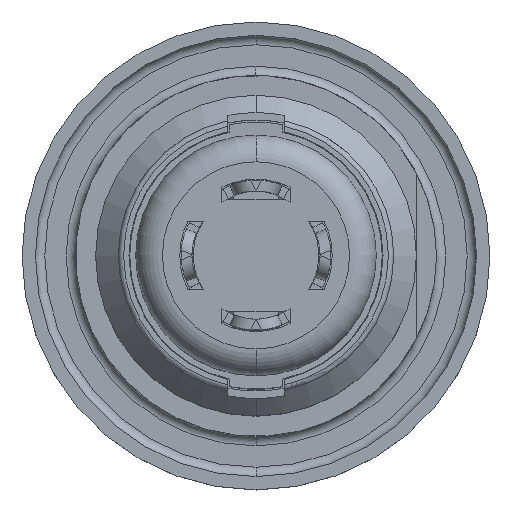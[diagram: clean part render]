
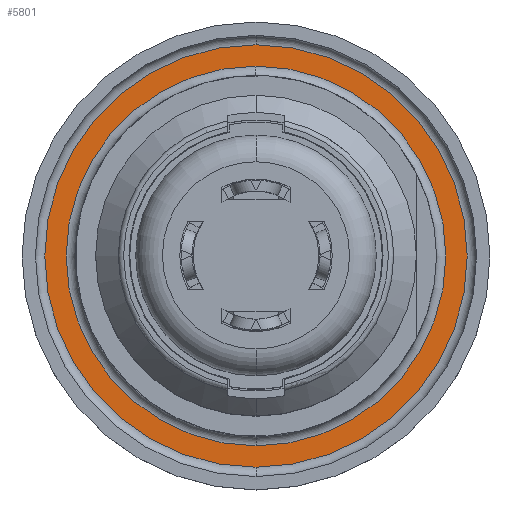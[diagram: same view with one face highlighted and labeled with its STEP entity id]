
A CAD part, top view. The second image highlights one B-rep face of the part: STEP entity #5801.
In plain terms, the highlighted planar face has unit normal (0, 0, 1).
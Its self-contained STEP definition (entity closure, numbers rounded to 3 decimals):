
#408=CARTESIAN_POINT('',(0.,0.,-0.8));
#409=DIRECTION('',(0.,0.,-1.));
#410=DIRECTION('',(0.,-1.,0.));
#411=AXIS2_PLACEMENT_3D('',#408,#409,#410);
#413=CARTESIAN_POINT('',(0.,0.,-0.8));
#414=DIRECTION('',(0.,0.,-1.));
#415=DIRECTION('',(0.,1.,0.));
#416=AXIS2_PLACEMENT_3D('',#413,#414,#415);
#418=CARTESIAN_POINT('',(0.,0.,-0.8));
#419=DIRECTION('',(0.,0.,-1.));
#420=DIRECTION('',(0.,-1.,0.));
#421=AXIS2_PLACEMENT_3D('',#418,#419,#420);
#423=CARTESIAN_POINT('',(0.,0.,-0.8));
#424=DIRECTION('',(0.,0.,-1.));
#425=DIRECTION('',(0.,1.,0.));
#426=AXIS2_PLACEMENT_3D('',#423,#424,#425);
#4514=CARTESIAN_POINT('',(0.,-7.9,-0.8));
#4515=CARTESIAN_POINT('',(0.,7.9,-0.8));
#4516=VERTEX_POINT('',#4514);
#4517=VERTEX_POINT('',#4515);
#4526=CARTESIAN_POINT('',(0.,-7.1,-0.8));
#4527=CARTESIAN_POINT('',(0.,7.1,-0.8));
#4528=VERTEX_POINT('',#4526);
#4529=VERTEX_POINT('',#4527);
#5786=CARTESIAN_POINT('',(0.,0.,-0.8));
#5787=DIRECTION('',(0.,0.,-1.));
#5788=DIRECTION('',(0.,-1.,0.));
#5789=AXIS2_PLACEMENT_3D('',#5786,#5787,#5788);
#5790=PLANE('',#5789);
#5792=ORIENTED_EDGE('',*,*,#5791,.T.);
#5794=ORIENTED_EDGE('',*,*,#5793,.T.);
#5795=EDGE_LOOP('',(#5792,#5794));
#5796=FACE_OUTER_BOUND('',#5795,.F.);
#5797=ORIENTED_EDGE('',*,*,#5740,.F.);
#5798=ORIENTED_EDGE('',*,*,#5755,.F.);
#5799=EDGE_LOOP('',(#5797,#5798));
#5800=FACE_BOUND('',#5799,.F.);
#5801=ADVANCED_FACE('',(#5796,#5800),#5790,.F.);
#412=CIRCLE('',#411,7.9);
#417=CIRCLE('',#416,7.9);
#422=CIRCLE('',#421,7.1);
#427=CIRCLE('',#426,7.1);
#5740=EDGE_CURVE('',#4528,#4529,#422,.T.);
#5755=EDGE_CURVE('',#4529,#4528,#427,.T.);
#5791=EDGE_CURVE('',#4516,#4517,#412,.T.);
#5793=EDGE_CURVE('',#4517,#4516,#417,.T.);
